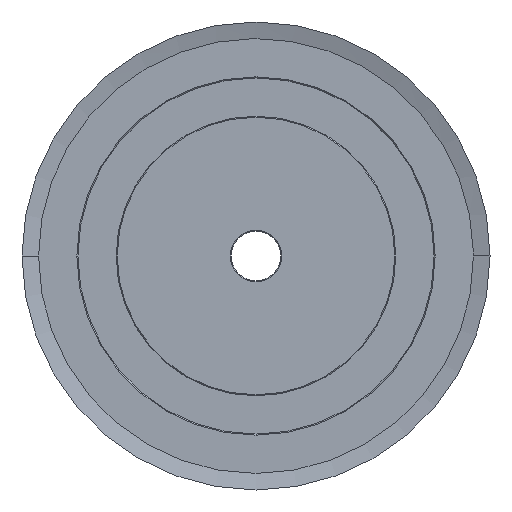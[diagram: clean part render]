
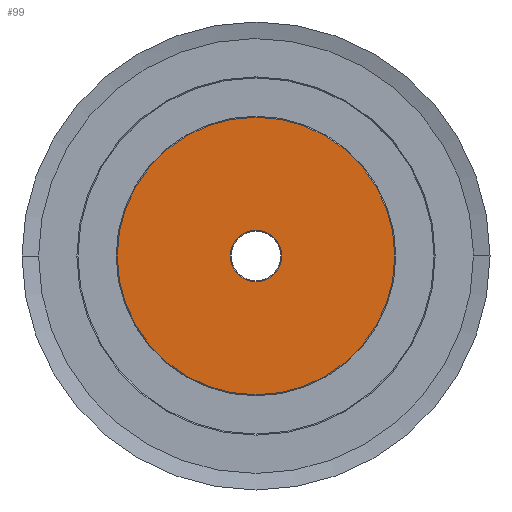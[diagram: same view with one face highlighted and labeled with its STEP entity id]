
A CAD part, left-side view. The second image highlights one B-rep face of the part: STEP entity #99.
In plain terms, the highlighted planar face has unit normal (-1, 0, 0).
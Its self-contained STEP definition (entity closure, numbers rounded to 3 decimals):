
#99=ADVANCED_FACE('',(#500,#501),#502,.T.);
#500=FACE_BOUND('',#1258,.T.);
#501=FACE_OUTER_BOUND('',#1259,.T.);
#502=PLANE('',#1260);
#1258=EDGE_LOOP('',(#2337,#2338));
#1259=EDGE_LOOP('',(#2339,#2340));
#1260=AXIS2_PLACEMENT_3D('',#2341,#2342,#2343);
#2337=ORIENTED_EDGE('',*,*,#5546,.T.);
#2338=ORIENTED_EDGE('',*,*,#5552,.T.);
#2339=ORIENTED_EDGE('',*,*,#5556,.T.);
#2340=ORIENTED_EDGE('',*,*,#5532,.T.);
#2341=CARTESIAN_POINT('',(0.0,0.0,0.0));
#2342=DIRECTION('',(-1.0,0.0,0.0));
#2343=DIRECTION('',(0.0,0.0,1.0));
#5532=EDGE_CURVE('',#6861,#6858,#6862,.T.);
#5546=EDGE_CURVE('',#6883,#6885,#6887,.T.);
#5552=EDGE_CURVE('',#6885,#6883,#6895,.T.);
#5556=EDGE_CURVE('',#6858,#6861,#6899,.T.);
#6858=VERTEX_POINT('',#9380);
#6861=VERTEX_POINT('',#9384);
#6862=CIRCLE('',#9385,67.0);
#6883=VERTEX_POINT('',#9411);
#6885=VERTEX_POINT('',#9414);
#6887=CIRCLE('',#9417,12.5);
#6895=CIRCLE('',#9427,12.5);
#6899=CIRCLE('',#9431,67.0);
#9380=CARTESIAN_POINT('',(0.0,67.0,0.0));
#9384=CARTESIAN_POINT('',(0.0,-67.0,0.));
#9385=AXIS2_PLACEMENT_3D('',#12042,#12043,#12044);
#9411=CARTESIAN_POINT('',(0.0,12.5,0.0));
#9414=CARTESIAN_POINT('',(0.0,-12.5,0.));
#9417=AXIS2_PLACEMENT_3D('',#12070,#12071,#12072);
#9427=AXIS2_PLACEMENT_3D('',#12084,#12085,#12086);
#9431=AXIS2_PLACEMENT_3D('',#12096,#12097,#12098);
#12042=CARTESIAN_POINT('',(0.0,0.0,0.));
#12043=DIRECTION('',(-1.0,0.0,0.0));
#12044=DIRECTION('',(0.0,1.0,0.0));
#12070=CARTESIAN_POINT('',(0.0,0.0,0.0));
#12071=DIRECTION('',(1.0,0.0,0.0));
#12072=DIRECTION('',(0.0,1.0,0.0));
#12084=CARTESIAN_POINT('',(0.0,0.0,0.0));
#12085=DIRECTION('',(1.0,0.0,0.0));
#12086=DIRECTION('',(0.0,1.0,0.0));
#12096=CARTESIAN_POINT('',(0.0,0.0,0.));
#12097=DIRECTION('',(-1.0,0.0,0.0));
#12098=DIRECTION('',(0.0,1.0,0.0));
